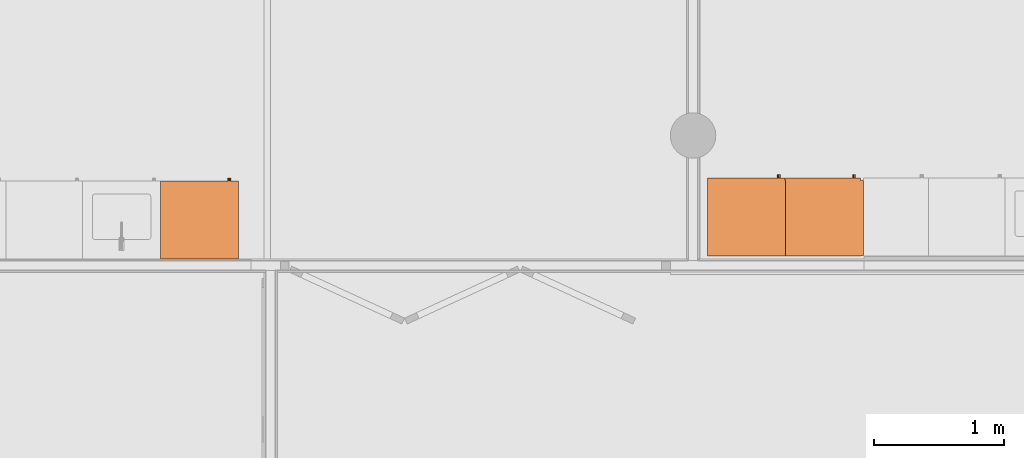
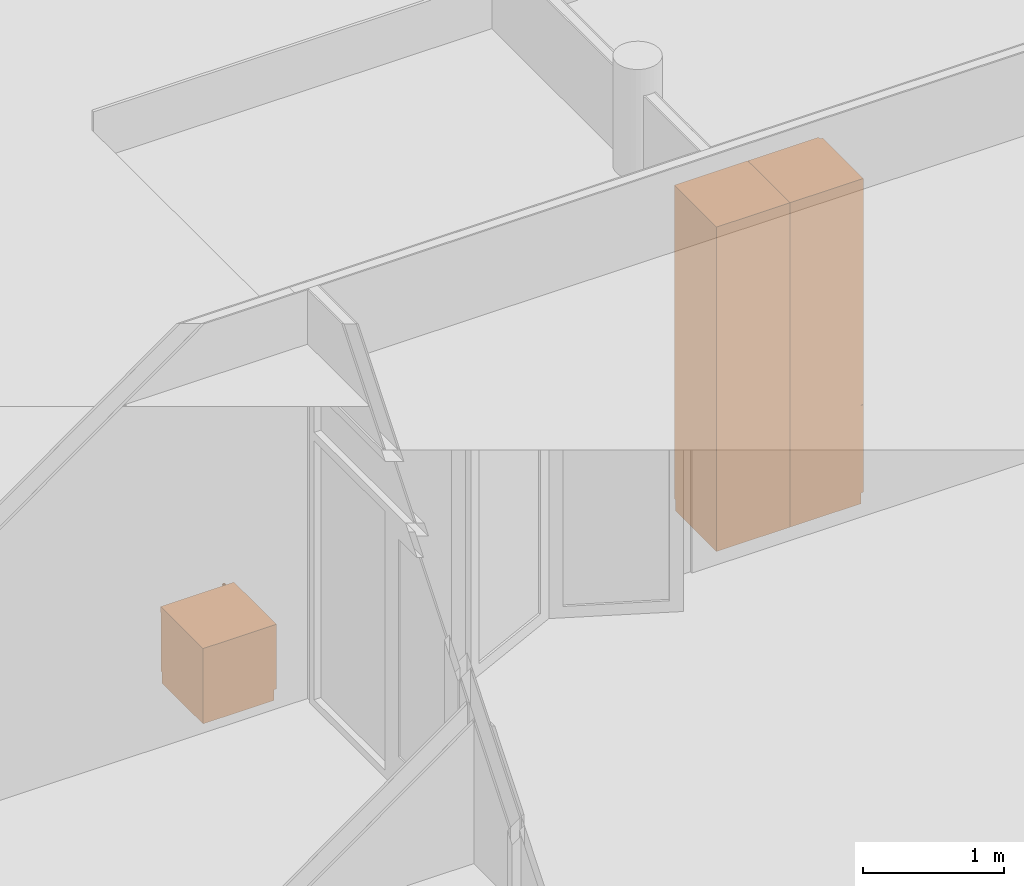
# One storey, part 102 of 167: 3 proxies.
"""IFC2X3 building model written with IfcOpenShell, lengths in millimetres."""

from ifc_helpers import new_model, entity, si_unit, converted_unit, derived_unit, money_unit, direction, frame, origin_with_axes, place, context, subcontext, project, spatial, faceted_brep, source, transform, mapped, type_object, type_shapes, element, save


model = new_model("IFC2X3")

# Units and contexts
model_context = context("Model", 3, precision=0.01, world=origin_with_axes(), true_north=direction((0.0, 1.0)))
plan_context = context("Plan", 3, precision=0.01, world=origin_with_axes(), true_north=direction((0.0, 1.0)))
body_context = subcontext(model_context, "Body", "Model", "MODEL_VIEW")
ifc_project = project(units=[si_unit("LENGTHUNIT", "METRE", prefix="MILLI"), si_unit("AREAUNIT", "SQUARE_METRE"), si_unit("VOLUMEUNIT", "CUBIC_METRE"), converted_unit("PLANEANGLEUNIT", "DEGREE", entity("IfcPlaneAngleMeasure", 0.0174532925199), si_unit("PLANEANGLEUNIT", "RADIAN"), dimensions=[0, 0, 0, 0, 0, 0, 0]), si_unit("SOLIDANGLEUNIT", "STERADIAN"), money_unit("EUR"), converted_unit("TIMEUNIT", "Year", entity("IfcTimeMeasure", 31556926.0), si_unit("TIMEUNIT", "SECOND"), dimensions=[0, 0, 1, 0, 0, 0, 0]), si_unit("MASSUNIT", "GRAM", prefix="KILO"), si_unit("THERMODYNAMICTEMPERATUREUNIT", "DEGREE_CELSIUS"), si_unit("LUMINOUSINTENSITYUNIT", "LUMEN"), si_unit("ENERGYUNIT", "JOULE", prefix="MEGA"), derived_unit("THERMALCONDUCTANCEUNIT", [(si_unit("POWERUNIT", "WATT"), 1), (si_unit("LENGTHUNIT", "METRE"), -1), (si_unit("THERMODYNAMICTEMPERATUREUNIT", "KELVIN"), -1)]), derived_unit("SPECIFICHEATCAPACITYUNIT", [(si_unit("ENERGYUNIT", "JOULE"), 1), (si_unit("MASSUNIT", "GRAM", prefix="KILO"), -1), (si_unit("THERMODYNAMICTEMPERATUREUNIT", "KELVIN"), -1)]), derived_unit("MASSDENSITYUNIT", [(si_unit("MASSUNIT", "GRAM", prefix="KILO"), 1), (si_unit("VOLUMEUNIT", "CUBIC_METRE"), -1)])], contexts=[model_context, plan_context])

# Site, building, storey
site_placement = place(None, origin_with_axes())
site = spatial("IfcSite", under=ifc_project, at=site_placement, Name="Site", CompositionType="ELEMENT")
building_placement = place(site_placement, origin_with_axes())
building = spatial("IfcBuilding", under=site, at=building_placement, Name="Naam gebouw", CompositionType="ELEMENT")
storey_placement = place(building_placement, origin_with_axes())
storey = spatial("IfcBuildingStorey", under=building, at=storey_placement, Name="Begane grond", CompositionType="ELEMENT", Elevation=0.0)

# Proxies
building_element_proxy_type_1 = type_object("IfcBuildingElementProxyType", Name="Kast hoog 1D 24", PredefinedType="NOTDEFINED")
shared_shape_1 = source(origin_with_axes(), body_context, "Body", "Brep", [
    faceted_brep([(-20.0, 20.0, 838.5), (-20.0, 20.0, 858.5), (-580.0, 20.0, 858.5), (-580.0, 20.0, 838.5), (-20.0, 580.0, 838.5), (-20.0, 580.0, 858.5), (-580.0, 580.0, 858.5), (-580.0, 580.0, 838.5)], [[[0, 1, 2, 3]], [[4, 5, 1, 0]], [[1, 5, 6, 2]], [[3, 2, 6, 7]], [[0, 3, 7, 4]], [[7, 6, 5, 4]]]),
    faceted_brep([(0.0, 20.0, 0.0), (0.0, 20.0, 90.0), (-600.0, 20.0, 90.0), (-600.0, 20.0, 0.0), (0.0, 600.0, 0.0), (0.0, 600.0, 90.0), (-600.0, 600.0, 90.0), (-600.0, 600.0, 0.0)], [[[0, 1, 2, 3]], [[4, 5, 1, 0]], [[1, 5, 6, 2]], [[3, 2, 6, 7]], [[0, 3, 7, 4]], [[7, 6, 5, 4]]]),
    faceted_brep([(0.0, 20.0, 2780.0), (0.0, 20.0, 2800.0), (-20.0, 20.0, 2800.0), (-20.0, 20.0, 2780.0), (0.0, 600.0, 2780.0), (0.0, 600.0, 2800.0), (-20.0, 600.0, 2800.0), (-580.0, 600.0, 2800.0), (-600.0, 600.0, 2800.0), (-600.0, 20.0, 2800.0), (-580.0, 20.0, 2800.0), (-580.0, 20.0, 2780.0), (-600.0, 20.0, 2780.0), (-600.0, 600.0, 2780.0), (-580.0, 600.0, 2780.0), (-20.0, 600.0, 2780.0)], [[[0, 1, 2, 3]], [[4, 5, 1, 0]], [[1, 5, 6, 7, 8, 9, 10, 2]], [[3, 2, 10, 11]], [[0, 3, 11, 12, 13, 14, 15, 4]], [[15, 6, 5, 4]], [[14, 7, 6, 15]], [[13, 8, 7, 14]], [[12, 9, 8, 13]], [[11, 10, 9, 12]]]),
    faceted_brep([(0.0, 20.0, 90.0), (0.0, 20.0, 110.0), (-20.0, 20.0, 110.0), (-20.0, 20.0, 90.0), (0.0, 600.0, 90.0), (0.0, 600.0, 110.0), (-20.0, 600.0, 110.0), (-580.0, 600.0, 110.0), (-600.0, 600.0, 110.0), (-600.0, 20.0, 110.0), (-580.0, 20.0, 110.0), (-580.0, 20.0, 90.0), (-600.0, 20.0, 90.0), (-600.0, 600.0, 90.0), (-580.0, 600.0, 90.0), (-20.0, 600.0, 90.0)], [[[0, 1, 2, 3]], [[4, 5, 1, 0]], [[1, 5, 6, 7, 8, 9, 10, 2]], [[3, 2, 10, 11]], [[0, 3, 11, 12, 13, 14, 15, 4]], [[15, 6, 5, 4]], [[14, 7, 6, 15]], [[13, 8, 7, 14]], [[12, 9, 8, 13]], [[11, 10, 9, 12]]]),
    faceted_brep([(0.0, 20.0, 110.0), (0.0, 20.0, 2780.0), (-20.0, 20.0, 2780.0), (-20.0, 20.0, 110.0), (0.0, 600.0, 110.0), (0.0, 600.0, 2780.0), (-600.0, 600.0, 2780.0), (-600.0, 20.0, 2780.0), (-580.0, 20.0, 2780.0), (-580.0, 580.0, 2780.0), (-20.0, 580.0, 2780.0), (-20.0, 580.0, 110.0), (-580.0, 580.0, 110.0), (-580.0, 20.0, 110.0), (-600.0, 20.0, 110.0), (-600.0, 600.0, 110.0)], [[[0, 1, 2, 3]], [[4, 5, 1, 0]], [[1, 5, 6, 7, 8, 9, 10, 2]], [[3, 2, 10, 11]], [[0, 3, 11, 12, 13, 14, 15, 4]], [[15, 6, 5, 4]], [[14, 7, 6, 15]], [[13, 8, 7, 14]], [[12, 9, 8, 13]], [[11, 10, 9, 12]]]),
    faceted_brep([(-580.0, 20.0, 329.5), (-580.0, 20.0, 349.5), (-580.0, 580.0, 349.5), (-580.0, 580.0, 329.5), (-20.0, 20.0, 329.5), (-20.0, 20.0, 349.5), (-20.0, 580.0, 349.5), (-20.0, 580.0, 329.5)], [[[0, 1, 2, 3]], [[4, 5, 1, 0]], [[1, 5, 6, 2]], [[3, 2, 6, 7]], [[0, 3, 7, 4]], [[7, 6, 5, 4]]]),
    faceted_brep([(-580.0, 20.0, 589.0), (-580.0, 20.0, 609.0), (-580.0, 580.0, 609.0), (-580.0, 580.0, 589.0), (-20.0, 20.0, 589.0), (-20.0, 20.0, 609.0), (-20.0, 580.0, 609.0), (-20.0, 580.0, 589.0)], [[[0, 1, 2, 3]], [[4, 5, 1, 0]], [[1, 5, 6, 2]], [[3, 2, 6, 7]], [[0, 3, 7, 4]], [[7, 6, 5, 4]]]),
    faceted_brep([(-1.5, 20.0, 91.5), (-1.5, 0.0, 91.5), (-598.5, 0.0, 91.5), (-598.5, 20.0, 91.5), (-1.5, 20.0, 847.0), (-1.5, 0.0, 847.0), (-598.5, 0.0, 847.0), (-598.5, 20.0, 847.0)], [[[0, 1, 2, 3]], [[4, 5, 1, 0]], [[1, 5, 6, 2]], [[3, 2, 6, 7]], [[0, 3, 7, 4]], [[7, 6, 5, 4]]]),
    faceted_brep([(-560.091109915, 0.0, 838.394171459), (-560.5, 0.0, 841.5), (-560.091109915, 0.0, 844.605828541), (-558.892304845, 0.0, 847.5), (-556.985281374, 0.0, 849.985281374), (-554.5, 0.0, 851.892304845), (-551.605828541, 0.0, 853.091109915), (-548.5, 0.0, 853.5), (-545.394171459, 0.0, 853.091109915), (-542.5, 0.0, 851.892304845), (-540.014718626, 0.0, 849.985281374), (-538.107695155, 0.0, 847.5), (-536.908890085, 0.0, 844.605828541), (-536.5, 0.0, 841.5), (-536.908890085, 0.0, 838.394171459), (-538.107695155, 0.0, 835.5), (-540.014718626, 0.0, 833.014718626), (-542.5, 0.0, 831.107695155), (-545.394171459, 0.0, 829.908890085), (-548.5, 0.0, 829.5), (-551.605828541, 0.0, 829.908890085), (-554.5, 0.0, 831.107695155), (-556.985281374, 0.0, 833.014718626), (-558.892304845, 0.0, 835.5), (-560.091109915, -25.0, 838.394171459), (-560.5, -25.0, 841.5), (-560.091109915, -25.0, 844.605828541), (-558.892304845, -25.0, 847.5), (-556.985281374, -25.0, 849.985281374), (-554.5, -25.0, 851.892304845), (-551.605828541, -25.0, 853.091109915), (-548.5, -25.0, 853.5), (-545.394171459, -25.0, 853.091109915), (-542.5, -25.0, 851.892304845), (-540.014718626, -25.0, 849.985281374), (-538.107695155, -25.0, 847.5), (-536.908890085, -25.0, 844.605828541), (-536.5, -25.0, 841.5), (-536.908890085, -25.0, 838.394171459), (-538.107695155, -25.0, 835.5), (-540.014718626, -25.0, 833.014718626), (-542.5, -25.0, 831.107695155), (-545.394171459, -25.0, 829.908890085), (-548.5, -25.0, 829.5), (-551.605828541, -25.0, 829.908890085), (-554.5, -25.0, 831.107695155), (-556.985281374, -25.0, 833.014718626), (-558.892304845, -25.0, 835.5)], [[[0, 1, 2, 3, 4, 5, 6, 7, 8, 9, 10, 11, 12, 13, 14, 15, 16, 17, 18, 19, 20, 21, 22, 23]], [[0, 24, 25, 1]], [[1, 25, 26, 2]], [[2, 26, 27, 3]], [[3, 27, 28, 4]], [[4, 28, 29, 5]], [[5, 29, 30, 6]], [[6, 30, 31, 7]], [[7, 31, 32, 8]], [[8, 32, 33, 9]], [[9, 33, 34, 10]], [[10, 34, 35, 11]], [[11, 35, 36, 12]], [[12, 36, 37, 13]], [[13, 37, 38, 14]], [[14, 38, 39, 15]], [[15, 39, 40, 16]], [[16, 40, 41, 17]], [[17, 41, 42, 18]], [[18, 42, 43, 19]], [[19, 43, 44, 20]], [[20, 44, 45, 21]], [[21, 45, 46, 22]], [[22, 46, 47, 23]], [[23, 47, 24, 0]], [[24, 47, 46, 45, 44, 43, 42, 41, 40, 39, 38, 37, 36, 35, 34, 33, 32, 31, 30, 29, 28, 27, 26, 25]]]),
    faceted_brep([(-1.5, 20.0, 850.0), (-1.5, 0.0, 850.0), (-598.5, 0.0, 850.0), (-598.5, 20.0, 850.0), (-1.5, 20.0, 2798.5), (-1.5, 0.0, 2798.5), (-598.5, 0.0, 2798.5), (-598.5, 20.0, 2798.5)], [[[0, 1, 2, 3]], [[4, 5, 1, 0]], [[1, 5, 6, 2]], [[3, 2, 6, 7]], [[0, 3, 7, 4]], [[7, 6, 5, 4]]]),
    faceted_brep([(-560.091109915, 0.0, 896.894171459), (-560.5, 0.0, 900.0), (-560.091109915, 0.0, 903.105828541), (-558.892304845, 0.0, 906.0), (-556.985281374, 0.0, 908.485281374), (-554.5, 0.0, 910.392304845), (-551.605828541, 0.0, 911.591109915), (-548.5, 0.0, 912.0), (-545.394171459, 0.0, 911.591109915), (-542.5, 0.0, 910.392304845), (-540.014718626, 0.0, 908.485281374), (-538.107695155, 0.0, 906.0), (-536.908890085, 0.0, 903.105828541), (-536.5, 0.0, 900.0), (-536.908890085, 0.0, 896.894171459), (-538.107695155, 0.0, 894.0), (-540.014718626, 0.0, 891.514718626), (-542.5, 0.0, 889.607695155), (-545.394171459, 0.0, 888.408890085), (-548.5, 0.0, 888.0), (-551.605828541, 0.0, 888.408890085), (-554.5, 0.0, 889.607695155), (-556.985281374, 0.0, 891.514718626), (-558.892304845, 0.0, 894.0), (-560.091109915, -25.0, 896.894171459), (-560.5, -25.0, 900.0), (-560.091109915, -25.0, 903.105828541), (-558.892304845, -25.0, 906.0), (-556.985281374, -25.0, 908.485281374), (-554.5, -25.0, 910.392304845), (-551.605828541, -25.0, 911.591109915), (-548.5, -25.0, 912.0), (-545.394171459, -25.0, 911.591109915), (-542.5, -25.0, 910.392304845), (-540.014718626, -25.0, 908.485281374), (-538.107695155, -25.0, 906.0), (-536.908890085, -25.0, 903.105828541), (-536.5, -25.0, 900.0), (-536.908890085, -25.0, 896.894171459), (-538.107695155, -25.0, 894.0), (-540.014718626, -25.0, 891.514718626), (-542.5, -25.0, 889.607695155), (-545.394171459, -25.0, 888.408890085), (-548.5, -25.0, 888.0), (-551.605828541, -25.0, 888.408890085), (-554.5, -25.0, 889.607695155), (-556.985281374, -25.0, 891.514718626), (-558.892304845, -25.0, 894.0)], [[[0, 1, 2, 3, 4, 5, 6, 7, 8, 9, 10, 11, 12, 13, 14, 15, 16, 17, 18, 19, 20, 21, 22, 23]], [[0, 24, 25, 1]], [[1, 25, 26, 2]], [[2, 26, 27, 3]], [[3, 27, 28, 4]], [[4, 28, 29, 5]], [[5, 29, 30, 6]], [[6, 30, 31, 7]], [[7, 31, 32, 8]], [[8, 32, 33, 9]], [[9, 33, 34, 10]], [[10, 34, 35, 11]], [[11, 35, 36, 12]], [[12, 36, 37, 13]], [[13, 37, 38, 14]], [[14, 38, 39, 15]], [[15, 39, 40, 16]], [[16, 40, 41, 17]], [[17, 41, 42, 18]], [[18, 42, 43, 19]], [[19, 43, 44, 20]], [[20, 44, 45, 21]], [[21, 45, 46, 22]], [[22, 46, 47, 23]], [[23, 47, 24, 0]], [[24, 47, 46, 45, 44, 43, 42, 41, 40, 39, 38, 37, 36, 35, 34, 33, 32, 31, 30, 29, 28, 27, 26, 25]]]),
])
proxy_1_placement = place(storey_placement, frame((7310.43240534, 42875.0, 0.0), z_axis=(0.0, 0.0, 1.0), x_axis=(-1.0, 0.0, 0.0)))
element("IfcBuildingElementProxy", 1, at=proxy_1_placement, inside=storey, type_object=building_element_proxy_type_1, Name="__Object-x", context=body_context, shape_type="MappedRepresentation", body=[
    mapped(shared_shape_1, transform((0.0, 0.0, 0.0))),
])
shared_shape_2 = source(origin_with_axes(), body_context, "Body", "Brep", [
    faceted_brep([(-20.0, 20.0, 838.5), (-20.0, 20.0, 858.5), (-560.0, 20.0, 858.5), (-560.0, 20.0, 838.5), (-20.0, 580.0, 838.5), (-20.0, 580.0, 858.5), (-560.0, 580.0, 858.5), (-560.0, 580.0, 838.5)], [[[0, 1, 2, 3]], [[4, 5, 1, 0]], [[1, 5, 6, 2]], [[3, 2, 6, 7]], [[0, 3, 7, 4]], [[7, 6, 5, 4]]]),
    faceted_brep([(0.0, 20.0, 0.0), (0.0, 20.0, 90.0), (-580.0, 20.0, 90.0), (-580.0, 20.0, 0.0), (0.0, 600.0, 0.0), (0.0, 600.0, 90.0), (-580.0, 600.0, 90.0), (-580.0, 600.0, 0.0)], [[[0, 1, 2, 3]], [[4, 5, 1, 0]], [[1, 5, 6, 2]], [[3, 2, 6, 7]], [[0, 3, 7, 4]], [[7, 6, 5, 4]]]),
    faceted_brep([(0.0, 20.0, 2780.0), (0.0, 20.0, 2800.0), (-20.0, 20.0, 2800.0), (-20.0, 20.0, 2780.0), (0.0, 600.0, 2780.0), (0.0, 600.0, 2800.0), (-20.0, 600.0, 2800.0), (-560.0, 600.0, 2800.0), (-580.0, 600.0, 2800.0), (-580.0, 20.0, 2800.0), (-560.0, 20.0, 2800.0), (-560.0, 20.0, 2780.0), (-580.0, 20.0, 2780.0), (-580.0, 600.0, 2780.0), (-560.0, 600.0, 2780.0), (-20.0, 600.0, 2780.0)], [[[0, 1, 2, 3]], [[4, 5, 1, 0]], [[1, 5, 6, 7, 8, 9, 10, 2]], [[3, 2, 10, 11]], [[0, 3, 11, 12, 13, 14, 15, 4]], [[15, 6, 5, 4]], [[14, 7, 6, 15]], [[13, 8, 7, 14]], [[12, 9, 8, 13]], [[11, 10, 9, 12]]]),
    faceted_brep([(0.0, 20.0, 90.0), (0.0, 20.0, 110.0), (-20.0, 20.0, 110.0), (-20.0, 20.0, 90.0), (0.0, 600.0, 90.0), (0.0, 600.0, 110.0), (-20.0, 600.0, 110.0), (-560.0, 600.0, 110.0), (-580.0, 600.0, 110.0), (-580.0, 20.0, 110.0), (-560.0, 20.0, 110.0), (-560.0, 20.0, 90.0), (-580.0, 20.0, 90.0), (-580.0, 600.0, 90.0), (-560.0, 600.0, 90.0), (-20.0, 600.0, 90.0)], [[[0, 1, 2, 3]], [[4, 5, 1, 0]], [[1, 5, 6, 7, 8, 9, 10, 2]], [[3, 2, 10, 11]], [[0, 3, 11, 12, 13, 14, 15, 4]], [[15, 6, 5, 4]], [[14, 7, 6, 15]], [[13, 8, 7, 14]], [[12, 9, 8, 13]], [[11, 10, 9, 12]]]),
    faceted_brep([(0.0, 20.0, 110.0), (0.0, 20.0, 2780.0), (-20.0, 20.0, 2780.0), (-20.0, 20.0, 110.0), (0.0, 600.0, 110.0), (0.0, 600.0, 2780.0), (-580.0, 600.0, 2780.0), (-580.0, 20.0, 2780.0), (-560.0, 20.0, 2780.0), (-560.0, 580.0, 2780.0), (-20.0, 580.0, 2780.0), (-20.0, 580.0, 110.0), (-560.0, 580.0, 110.0), (-560.0, 20.0, 110.0), (-580.0, 20.0, 110.0), (-580.0, 600.0, 110.0)], [[[0, 1, 2, 3]], [[4, 5, 1, 0]], [[1, 5, 6, 7, 8, 9, 10, 2]], [[3, 2, 10, 11]], [[0, 3, 11, 12, 13, 14, 15, 4]], [[15, 6, 5, 4]], [[14, 7, 6, 15]], [[13, 8, 7, 14]], [[12, 9, 8, 13]], [[11, 10, 9, 12]]]),
    faceted_brep([(-560.0, 20.0, 329.5), (-560.0, 20.0, 349.5), (-560.0, 580.0, 349.5), (-560.0, 580.0, 329.5), (-20.0, 20.0, 329.5), (-20.0, 20.0, 349.5), (-20.0, 580.0, 349.5), (-20.0, 580.0, 329.5)], [[[0, 1, 2, 3]], [[4, 5, 1, 0]], [[1, 5, 6, 2]], [[3, 2, 6, 7]], [[0, 3, 7, 4]], [[7, 6, 5, 4]]]),
    faceted_brep([(-560.0, 20.0, 589.0), (-560.0, 20.0, 609.0), (-560.0, 580.0, 609.0), (-560.0, 580.0, 589.0), (-20.0, 20.0, 589.0), (-20.0, 20.0, 609.0), (-20.0, 580.0, 609.0), (-20.0, 580.0, 589.0)], [[[0, 1, 2, 3]], [[4, 5, 1, 0]], [[1, 5, 6, 2]], [[3, 2, 6, 7]], [[0, 3, 7, 4]], [[7, 6, 5, 4]]]),
    faceted_brep([(-1.5, 20.0, 91.5), (-1.5, 0.0, 91.5), (-578.5, 0.0, 91.5), (-578.5, 20.0, 91.5), (-1.5, 20.0, 847.0), (-1.5, 0.0, 847.0), (-578.5, 0.0, 847.0), (-578.5, 20.0, 847.0)], [[[0, 1, 2, 3]], [[4, 5, 1, 0]], [[1, 5, 6, 2]], [[3, 2, 6, 7]], [[0, 3, 7, 4]], [[7, 6, 5, 4]]]),
    faceted_brep([(-540.091109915, 0.0, 838.394171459), (-540.5, 0.0, 841.5), (-540.091109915, 0.0, 844.605828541), (-538.892304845, 0.0, 847.5), (-536.985281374, 0.0, 849.985281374), (-534.5, 0.0, 851.892304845), (-531.605828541, 0.0, 853.091109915), (-528.5, 0.0, 853.5), (-525.394171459, 0.0, 853.091109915), (-522.5, 0.0, 851.892304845), (-520.014718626, 0.0, 849.985281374), (-518.107695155, 0.0, 847.5), (-516.908890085, 0.0, 844.605828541), (-516.5, 0.0, 841.5), (-516.908890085, 0.0, 838.394171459), (-518.107695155, 0.0, 835.5), (-520.014718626, 0.0, 833.014718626), (-522.5, 0.0, 831.107695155), (-525.394171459, 0.0, 829.908890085), (-528.5, 0.0, 829.5), (-531.605828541, 0.0, 829.908890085), (-534.5, 0.0, 831.107695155), (-536.985281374, 0.0, 833.014718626), (-538.892304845, 0.0, 835.5), (-540.091109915, -25.0, 838.394171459), (-540.5, -25.0, 841.5), (-540.091109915, -25.0, 844.605828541), (-538.892304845, -25.0, 847.5), (-536.985281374, -25.0, 849.985281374), (-534.5, -25.0, 851.892304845), (-531.605828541, -25.0, 853.091109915), (-528.5, -25.0, 853.5), (-525.394171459, -25.0, 853.091109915), (-522.5, -25.0, 851.892304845), (-520.014718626, -25.0, 849.985281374), (-518.107695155, -25.0, 847.5), (-516.908890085, -25.0, 844.605828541), (-516.5, -25.0, 841.5), (-516.908890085, -25.0, 838.394171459), (-518.107695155, -25.0, 835.5), (-520.014718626, -25.0, 833.014718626), (-522.5, -25.0, 831.107695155), (-525.394171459, -25.0, 829.908890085), (-528.5, -25.0, 829.5), (-531.605828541, -25.0, 829.908890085), (-534.5, -25.0, 831.107695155), (-536.985281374, -25.0, 833.014718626), (-538.892304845, -25.0, 835.5)], [[[0, 1, 2, 3, 4, 5, 6, 7, 8, 9, 10, 11, 12, 13, 14, 15, 16, 17, 18, 19, 20, 21, 22, 23]], [[0, 24, 25, 1]], [[1, 25, 26, 2]], [[2, 26, 27, 3]], [[3, 27, 28, 4]], [[4, 28, 29, 5]], [[5, 29, 30, 6]], [[6, 30, 31, 7]], [[7, 31, 32, 8]], [[8, 32, 33, 9]], [[9, 33, 34, 10]], [[10, 34, 35, 11]], [[11, 35, 36, 12]], [[12, 36, 37, 13]], [[13, 37, 38, 14]], [[14, 38, 39, 15]], [[15, 39, 40, 16]], [[16, 40, 41, 17]], [[17, 41, 42, 18]], [[18, 42, 43, 19]], [[19, 43, 44, 20]], [[20, 44, 45, 21]], [[21, 45, 46, 22]], [[22, 46, 47, 23]], [[23, 47, 24, 0]], [[24, 47, 46, 45, 44, 43, 42, 41, 40, 39, 38, 37, 36, 35, 34, 33, 32, 31, 30, 29, 28, 27, 26, 25]]]),
    faceted_brep([(-1.5, 20.0, 850.0), (-1.5, 0.0, 850.0), (-578.5, 0.0, 850.0), (-578.5, 20.0, 850.0), (-1.5, 20.0, 2798.5), (-1.5, 0.0, 2798.5), (-578.5, 0.0, 2798.5), (-578.5, 20.0, 2798.5)], [[[0, 1, 2, 3]], [[4, 5, 1, 0]], [[1, 5, 6, 2]], [[3, 2, 6, 7]], [[0, 3, 7, 4]], [[7, 6, 5, 4]]]),
    faceted_brep([(-540.091109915, 0.0, 896.894171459), (-540.5, 0.0, 900.0), (-540.091109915, 0.0, 903.105828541), (-538.892304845, 0.0, 906.0), (-536.985281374, 0.0, 908.485281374), (-534.5, 0.0, 910.392304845), (-531.605828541, 0.0, 911.591109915), (-528.5, 0.0, 912.0), (-525.394171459, 0.0, 911.591109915), (-522.5, 0.0, 910.392304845), (-520.014718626, 0.0, 908.485281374), (-518.107695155, 0.0, 906.0), (-516.908890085, 0.0, 903.105828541), (-516.5, 0.0, 900.0), (-516.908890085, 0.0, 896.894171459), (-518.107695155, 0.0, 894.0), (-520.014718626, 0.0, 891.514718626), (-522.5, 0.0, 889.607695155), (-525.394171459, 0.0, 888.408890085), (-528.5, 0.0, 888.0), (-531.605828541, 0.0, 888.408890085), (-534.5, 0.0, 889.607695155), (-536.985281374, 0.0, 891.514718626), (-538.892304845, 0.0, 894.0), (-540.091109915, -25.0, 896.894171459), (-540.5, -25.0, 900.0), (-540.091109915, -25.0, 903.105828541), (-538.892304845, -25.0, 906.0), (-536.985281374, -25.0, 908.485281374), (-534.5, -25.0, 910.392304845), (-531.605828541, -25.0, 911.591109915), (-528.5, -25.0, 912.0), (-525.394171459, -25.0, 911.591109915), (-522.5, -25.0, 910.392304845), (-520.014718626, -25.0, 908.485281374), (-518.107695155, -25.0, 906.0), (-516.908890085, -25.0, 903.105828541), (-516.5, -25.0, 900.0), (-516.908890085, -25.0, 896.894171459), (-518.107695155, -25.0, 894.0), (-520.014718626, -25.0, 891.514718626), (-522.5, -25.0, 889.607695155), (-525.394171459, -25.0, 888.408890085), (-528.5, -25.0, 888.0), (-531.605828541, -25.0, 888.408890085), (-534.5, -25.0, 889.607695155), (-536.985281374, -25.0, 891.514718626), (-538.892304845, -25.0, 894.0)], [[[0, 1, 2, 3, 4, 5, 6, 7, 8, 9, 10, 11, 12, 13, 14, 15, 16, 17, 18, 19, 20, 21, 22, 23]], [[0, 24, 25, 1]], [[1, 25, 26, 2]], [[2, 26, 27, 3]], [[3, 27, 28, 4]], [[4, 28, 29, 5]], [[5, 29, 30, 6]], [[6, 30, 31, 7]], [[7, 31, 32, 8]], [[8, 32, 33, 9]], [[9, 33, 34, 10]], [[10, 34, 35, 11]], [[11, 35, 36, 12]], [[12, 36, 37, 13]], [[13, 37, 38, 14]], [[14, 38, 39, 15]], [[15, 39, 40, 16]], [[16, 40, 41, 17]], [[17, 41, 42, 18]], [[18, 42, 43, 19]], [[19, 43, 44, 20]], [[20, 44, 45, 21]], [[21, 45, 46, 22]], [[22, 46, 47, 23]], [[23, 47, 24, 0]], [[24, 47, 46, 45, 44, 43, 42, 41, 40, 39, 38, 37, 36, 35, 34, 33, 32, 31, 30, 29, 28, 27, 26, 25]]]),
    faceted_brep([(-580.0, 21.5, 91.5), (-600.0, 21.5, 91.5), (-600.0, 598.5, 91.5), (-580.0, 598.5, 91.5), (-580.0, 21.5, 847.0), (-600.0, 21.5, 847.0), (-600.0, 598.5, 847.0), (-580.0, 598.5, 847.0)], [[[0, 1, 2, 3]], [[4, 5, 1, 0]], [[1, 5, 6, 2]], [[3, 2, 6, 7]], [[0, 3, 7, 4]], [[7, 6, 5, 4]]]),
    faceted_brep([(-580.0, 21.5, 850.0), (-600.0, 21.5, 850.0), (-600.0, 598.5, 850.0), (-580.0, 598.5, 850.0), (-580.0, 21.5, 2798.5), (-600.0, 21.5, 2798.5), (-600.0, 598.5, 2798.5), (-580.0, 598.5, 2798.5)], [[[0, 1, 2, 3]], [[4, 5, 1, 0]], [[1, 5, 6, 2]], [[3, 2, 6, 7]], [[0, 3, 7, 4]], [[7, 6, 5, 4]]]),
])
type_shapes(building_element_proxy_type_1, [shared_shape_1, shared_shape_2])
proxy_2_placement = place(storey_placement, frame((7910.43240534, 42875.0, 0.0), z_axis=(0.0, 0.0, 1.0), x_axis=(-1.0, 0.0, 0.0)))
element("IfcBuildingElementProxy", 2, at=proxy_2_placement, inside=storey, type_object=building_element_proxy_type_1, Name="__Object-x", context=body_context, shape_type="MappedRepresentation", body=[
    mapped(shared_shape_2, transform((0.0, 0.0, 0.0))),
])
building_element_proxy_type_2 = type_object("IfcBuildingElementProxyType", Name="Kast basis 1D 24", PredefinedType="NOTDEFINED")
shared_shape_3 = source(origin_with_axes(), body_context, "Body", "Brep", [
    faceted_brep([(0.0, 20.0, 0.0), (0.0, 20.0, 90.0), (-580.0, 20.0, 90.0), (-580.0, 20.0, 0.0), (0.0, 600.0, 0.0), (0.0, 600.0, 90.0), (-580.0, 600.0, 90.0), (-580.0, 600.0, 0.0)], [[[0, 1, 2, 3]], [[4, 5, 1, 0]], [[1, 5, 6, 2]], [[3, 2, 6, 7]], [[0, 3, 7, 4]], [[7, 6, 5, 4]]]),
    faceted_brep([(0.0, 20.0, 580.0), (0.0, 20.0, 600.0), (-20.0, 20.0, 600.0), (-20.0, 20.0, 580.0), (0.0, 600.0, 580.0), (0.0, 600.0, 600.0), (-20.0, 600.0, 600.0), (-560.0, 600.0, 600.0), (-580.0, 600.0, 600.0), (-580.0, 20.0, 600.0), (-560.0, 20.0, 600.0), (-560.0, 20.0, 580.0), (-580.0, 20.0, 580.0), (-580.0, 600.0, 580.0), (-560.0, 600.0, 580.0), (-20.0, 600.0, 580.0)], [[[0, 1, 2, 3]], [[4, 5, 1, 0]], [[1, 5, 6, 7, 8, 9, 10, 2]], [[3, 2, 10, 11]], [[0, 3, 11, 12, 13, 14, 15, 4]], [[15, 6, 5, 4]], [[14, 7, 6, 15]], [[13, 8, 7, 14]], [[12, 9, 8, 13]], [[11, 10, 9, 12]]]),
    faceted_brep([(0.0, 20.0, 90.0), (0.0, 20.0, 110.0), (-20.0, 20.0, 110.0), (-20.0, 20.0, 90.0), (0.0, 600.0, 90.0), (0.0, 600.0, 110.0), (-20.0, 600.0, 110.0), (-560.0, 600.0, 110.0), (-580.0, 600.0, 110.0), (-580.0, 20.0, 110.0), (-560.0, 20.0, 110.0), (-560.0, 20.0, 90.0), (-580.0, 20.0, 90.0), (-580.0, 600.0, 90.0), (-560.0, 600.0, 90.0), (-20.0, 600.0, 90.0)], [[[0, 1, 2, 3]], [[4, 5, 1, 0]], [[1, 5, 6, 7, 8, 9, 10, 2]], [[3, 2, 10, 11]], [[0, 3, 11, 12, 13, 14, 15, 4]], [[15, 6, 5, 4]], [[14, 7, 6, 15]], [[13, 8, 7, 14]], [[12, 9, 8, 13]], [[11, 10, 9, 12]]]),
    faceted_brep([(0.0, 20.0, 110.0), (0.0, 20.0, 580.0), (-20.0, 20.0, 580.0), (-20.0, 20.0, 110.0), (0.0, 600.0, 110.0), (0.0, 600.0, 580.0), (-580.0, 600.0, 580.0), (-580.0, 20.0, 580.0), (-560.0, 20.0, 580.0), (-560.0, 580.0, 580.0), (-20.0, 580.0, 580.0), (-20.0, 580.0, 110.0), (-560.0, 580.0, 110.0), (-560.0, 20.0, 110.0), (-580.0, 20.0, 110.0), (-580.0, 600.0, 110.0)], [[[0, 1, 2, 3]], [[4, 5, 1, 0]], [[1, 5, 6, 7, 8, 9, 10, 2]], [[3, 2, 10, 11]], [[0, 3, 11, 12, 13, 14, 15, 4]], [[15, 6, 5, 4]], [[14, 7, 6, 15]], [[13, 8, 7, 14]], [[12, 9, 8, 13]], [[11, 10, 9, 12]]]),
    faceted_brep([(-560.0, 20.0, 325.0), (-560.0, 20.0, 345.0), (-560.0, 580.0, 345.0), (-560.0, 580.0, 325.0), (-20.0, 20.0, 325.0), (-20.0, 20.0, 345.0), (-20.0, 580.0, 345.0), (-20.0, 580.0, 325.0)], [[[0, 1, 2, 3]], [[4, 5, 1, 0]], [[1, 5, 6, 2]], [[3, 2, 6, 7]], [[0, 3, 7, 4]], [[7, 6, 5, 4]]]),
    faceted_brep([(0.0, 0.0, 600.0), (0.0, 0.0, 650.0), (-600.0, 0.0, 650.0), (-600.0, 0.0, 600.0), (0.0, 600.0, 600.0), (0.0, 600.0, 650.0), (-600.0, 600.0, 650.0), (-600.0, 600.0, 600.0)], [[[0, 1, 2, 3]], [[4, 5, 1, 0]], [[1, 5, 6, 2]], [[3, 2, 6, 7]], [[0, 3, 7, 4]], [[7, 6, 5, 4]]]),
    faceted_brep([(-1.5, 20.0, 91.5), (-1.5, 0.0, 91.5), (-578.5, 0.0, 91.5), (-578.5, 20.0, 91.5), (-1.5, 20.0, 598.5), (-1.5, 0.0, 598.5), (-578.5, 0.0, 598.5), (-578.5, 20.0, 598.5)], [[[0, 1, 2, 3]], [[4, 5, 1, 0]], [[1, 5, 6, 2]], [[3, 2, 6, 7]], [[0, 3, 7, 4]], [[7, 6, 5, 4]]]),
    faceted_brep([(-539.58655439, 0.0, 636.907798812), (-540.5, 0.0, 641.5), (-539.58655439, 0.0, 646.092201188), (-536.985281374, 0.0, 649.985281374), (-533.092201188, 0.0, 652.58655439), (-528.5, 0.0, 653.5), (-523.907798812, 0.0, 652.58655439), (-520.014718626, 0.0, 649.985281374), (-517.41344561, 0.0, 646.092201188), (-516.5, 0.0, 641.5), (-517.41344561, 0.0, 636.907798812), (-520.014718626, 0.0, 633.014718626), (-523.907798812, 0.0, 630.41344561), (-528.5, 0.0, 629.5), (-533.092201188, 0.0, 630.41344561), (-536.985281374, 0.0, 633.014718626), (-539.58655439, -25.0, 636.907798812), (-540.5, -25.0, 641.5), (-539.58655439, -25.0, 646.092201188), (-536.985281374, -25.0, 649.985281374), (-533.092201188, -25.0, 652.58655439), (-528.5, -25.0, 653.5), (-523.907798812, -25.0, 652.58655439), (-520.014718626, -25.0, 649.985281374), (-517.41344561, -25.0, 646.092201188), (-516.5, -25.0, 641.5), (-517.41344561, -25.0, 636.907798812), (-520.014718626, -25.0, 633.014718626), (-523.907798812, -25.0, 630.41344561), (-528.5, -25.0, 629.5), (-533.092201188, -25.0, 630.41344561), (-536.985281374, -25.0, 633.014718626)], [[[0, 1, 2, 3, 4, 5, 6, 7, 8, 9, 10, 11, 12, 13, 14, 15]], [[0, 16, 17, 1]], [[1, 17, 18, 2]], [[2, 18, 19, 3]], [[3, 19, 20, 4]], [[4, 20, 21, 5]], [[5, 21, 22, 6]], [[6, 22, 23, 7]], [[7, 23, 24, 8]], [[8, 24, 25, 9]], [[9, 25, 26, 10]], [[10, 26, 27, 11]], [[11, 27, 28, 12]], [[12, 28, 29, 13]], [[13, 29, 30, 14]], [[14, 30, 31, 15]], [[15, 31, 16, 0]], [[16, 31, 30, 29, 28, 27, 26, 25, 24, 23, 22, 21, 20, 19, 18, 17]]]),
    faceted_brep([(-580.0, 21.5, 91.5), (-600.0, 21.5, 91.5), (-600.0, 598.5, 91.5), (-580.0, 598.5, 91.5), (-580.0, 21.5, 598.5), (-600.0, 21.5, 598.5), (-600.0, 598.5, 598.5), (-580.0, 598.5, 598.5)], [[[0, 1, 2, 3]], [[4, 5, 1, 0]], [[1, 5, 6, 2]], [[3, 2, 6, 7]], [[0, 3, 7, 4]], [[7, 6, 5, 4]]]),
])
type_shapes(building_element_proxy_type_2, [shared_shape_3])
proxy_3_placement = place(storey_placement, frame((3104.0, 42850.0, 0.0), z_axis=(0.0, 0.0, 1.0), x_axis=(-1.0, 0.0, 0.0)))
element("IfcBuildingElementProxy", 3, at=proxy_3_placement, inside=storey, type_object=building_element_proxy_type_2, Name="__Object-x", context=body_context, shape_type="MappedRepresentation", body=[
    mapped(shared_shape_3, transform((0.0, 0.0, 0.0))),
])

save(model, "model.ifc")
